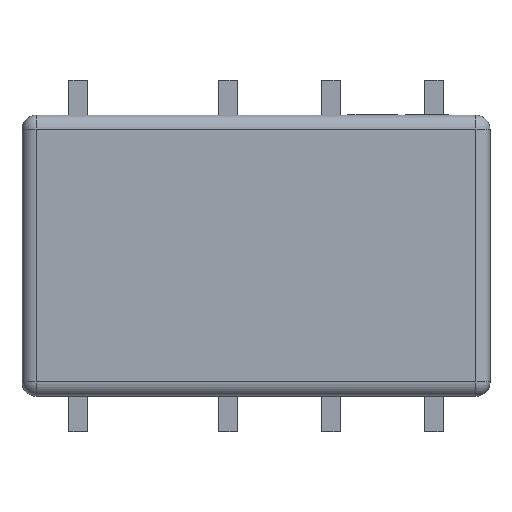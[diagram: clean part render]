
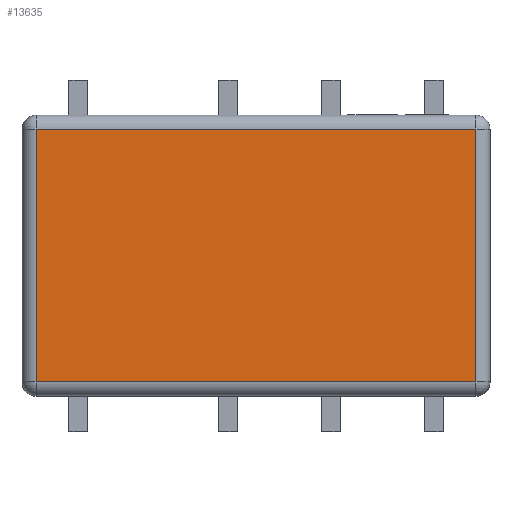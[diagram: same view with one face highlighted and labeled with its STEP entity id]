
A CAD part, top view. The second image highlights one B-rep face of the part: STEP entity #13635.
In plain terms, the highlighted planar face has unit normal (0, 0, 1).
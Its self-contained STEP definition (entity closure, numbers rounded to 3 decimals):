
#426 = ORIENTED_EDGE ( 'NONE', *, *, #3400, .T. ) ;
#1010 = CARTESIAN_POINT ( 'NONE',  ( 0., 2.7, 4.65 ) ) ;
#1410 = LINE ( 'NONE', #15316, #9907 ) ;
#1862 = LINE ( 'NONE', #12721, #13575 ) ;
#2190 = VECTOR ( 'NONE', #14717, 1000. ) ;
#2272 = CARTESIAN_POINT ( 'NONE',  ( 4.7, 0., 4.65 ) ) ;
#2474 = CARTESIAN_POINT ( 'NONE',  ( -4.7, -2.7, 4.65 ) ) ;
#2563 = DIRECTION ( 'NONE',  ( -1., 0., 0. ) ) ;
#2565 = CARTESIAN_POINT ( 'NONE',  ( 0., 0., 4.65 ) ) ;
#2747 = AXIS2_PLACEMENT_3D ( 'NONE', #2565, #17146, #10728 ) ;
#3073 = CARTESIAN_POINT ( 'NONE',  ( -4.7, 2.7, 4.65 ) ) ;
#3400 = EDGE_CURVE ( 'NONE', #10592, #4053, #3739, .T. ) ;
#3739 = LINE ( 'NONE', #1010, #4244 ) ;
#4053 = VERTEX_POINT ( 'NONE', #3073 ) ;
#4244 = VECTOR ( 'NONE', #2563, 1000. ) ;
#5051 = VERTEX_POINT ( 'NONE', #5378 ) ;
#5378 = CARTESIAN_POINT ( 'NONE',  ( 4.7, -2.7, 4.65 ) ) ;
#6982 = DIRECTION ( 'NONE',  ( 0., -1., 0. ) ) ;
#7127 = ORIENTED_EDGE ( 'NONE', *, *, #11677, .T. ) ;
#7216 = EDGE_LOOP ( 'NONE', ( #13016, #7127, #9182, #426 ) ) ;
#8853 = FACE_OUTER_BOUND ( 'NONE', #7216, .T. ) ;
#9182 = ORIENTED_EDGE ( 'NONE', *, *, #13883, .T. ) ;
#9907 = VECTOR ( 'NONE', #6982, 1000. ) ;
#10026 = PLANE ( 'NONE',  #2747 ) ;
#10130 = DIRECTION ( 'NONE',  ( 1., 0., 0. ) ) ;
#10592 = VERTEX_POINT ( 'NONE', #10783 ) ;
#10728 = DIRECTION ( 'NONE',  ( -1., 0., 0. ) ) ;
#10783 = CARTESIAN_POINT ( 'NONE',  ( 4.7, 2.7, 4.65 ) ) ;
#11677 = EDGE_CURVE ( 'NONE', #13640, #5051, #1862, .T. ) ;
#12721 = CARTESIAN_POINT ( 'NONE',  ( 0., -2.7, 4.65 ) ) ;
#13016 = ORIENTED_EDGE ( 'NONE', *, *, #13066, .T. ) ;
#13066 = EDGE_CURVE ( 'NONE', #4053, #13640, #1410, .T. ) ;
#13116 = LINE ( 'NONE', #2272, #2190 ) ;
#13575 = VECTOR ( 'NONE', #10130, 1000. ) ;
#13635 = ADVANCED_FACE ( 'NONE', ( #8853 ), #10026, .F. ) ;
#13640 = VERTEX_POINT ( 'NONE', #2474 ) ;
#13883 = EDGE_CURVE ( 'NONE', #5051, #10592, #13116, .T. ) ;
#14717 = DIRECTION ( 'NONE',  ( 0., 1., 0. ) ) ;
#15316 = CARTESIAN_POINT ( 'NONE',  ( -4.7, 0., 4.65 ) ) ;
#17146 = DIRECTION ( 'NONE',  ( 0., 0., -1. ) ) ;
